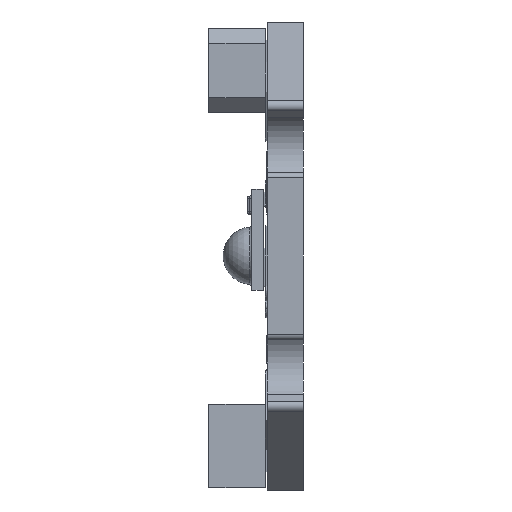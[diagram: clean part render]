
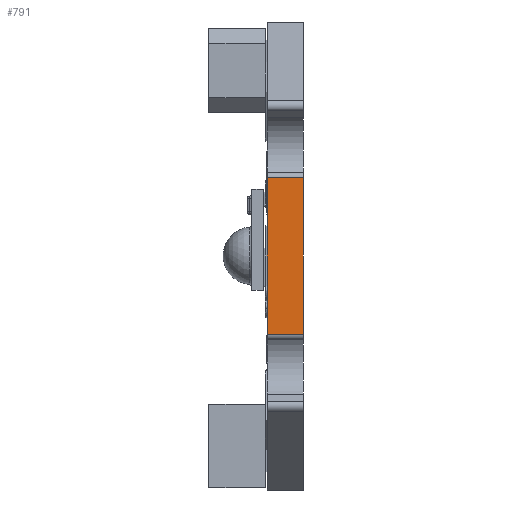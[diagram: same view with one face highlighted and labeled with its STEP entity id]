
A CAD part, left-side view. The second image highlights one B-rep face of the part: STEP entity #791.
In plain terms, the highlighted planar face has unit normal (-1, 0, 0).
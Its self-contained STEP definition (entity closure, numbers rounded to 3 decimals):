
#48 = EDGE_CURVE ( 'NONE', #6785, #29981, #9883, .T. ) ;
#791 = ADVANCED_FACE ( 'NONE', ( #30437 ), #7710, .F. ) ;
#2069 = AXIS2_PLACEMENT_3D ( 'NONE', #5690, #15795, #21425 ) ;
#2375 = DIRECTION ( 'NONE',  ( 0., 0., 1. ) ) ;
#3565 = ORIENTED_EDGE ( 'NONE', *, *, #28428, .T. ) ;
#3592 = CARTESIAN_POINT ( 'NONE',  ( 73.965, 0., -42.011 ) ) ;
#4915 = DIRECTION ( 'NONE',  ( 0., 0., 1. ) ) ;
#5690 = CARTESIAN_POINT ( 'NONE',  ( 73.965, 1.6, -42.011 ) ) ;
#6090 = ORIENTED_EDGE ( 'NONE', *, *, #23802, .T. ) ;
#6609 = ORIENTED_EDGE ( 'NONE', *, *, #48, .F. ) ;
#6785 = VERTEX_POINT ( 'NONE', #8931 ) ;
#7633 = LINE ( 'NONE', #10432, #30574 ) ;
#7710 = PLANE ( 'NONE',  #2069 ) ;
#8925 = CARTESIAN_POINT ( 'NONE',  ( 73.965, 1.6, -35.08 ) ) ;
#8931 = CARTESIAN_POINT ( 'NONE',  ( 73.965, 1.6, -42.011 ) ) ;
#9813 = DIRECTION ( 'NONE',  ( 0., -1., 0. ) ) ;
#9883 = LINE ( 'NONE', #19985, #28654 ) ;
#10301 = CARTESIAN_POINT ( 'NONE',  ( 73.965, 1.6, -42.011 ) ) ;
#10432 = CARTESIAN_POINT ( 'NONE',  ( 73.965, 1.6, -35.08 ) ) ;
#12165 = LINE ( 'NONE', #22923, #30085 ) ;
#15795 = DIRECTION ( 'NONE',  ( 1., 0., 0. ) ) ;
#18157 = EDGE_LOOP ( 'NONE', ( #3565, #30481, #6609, #6090 ) ) ;
#19985 = CARTESIAN_POINT ( 'NONE',  ( 73.965, 1.6, -42.011 ) ) ;
#21425 = DIRECTION ( 'NONE',  ( 0., 0., -1. ) ) ;
#22310 = VERTEX_POINT ( 'NONE', #31429 ) ;
#22923 = CARTESIAN_POINT ( 'NONE',  ( 73.965, 0., -42.011 ) ) ;
#23802 = EDGE_CURVE ( 'NONE', #6785, #27768, #28065, .T. ) ;
#25336 = DIRECTION ( 'NONE',  ( 0., -1., 0. ) ) ;
#27264 = VECTOR ( 'NONE', #9813, 1000. ) ;
#27419 = EDGE_CURVE ( 'NONE', #29981, #22310, #7633, .T. ) ;
#27768 = VERTEX_POINT ( 'NONE', #3592 ) ;
#28065 = LINE ( 'NONE', #10301, #27264 ) ;
#28428 = EDGE_CURVE ( 'NONE', #27768, #22310, #12165, .T. ) ;
#28654 = VECTOR ( 'NONE', #4915, 1000. ) ;
#29981 = VERTEX_POINT ( 'NONE', #8925 ) ;
#30085 = VECTOR ( 'NONE', #2375, 1000. ) ;
#30437 = FACE_OUTER_BOUND ( 'NONE', #18157, .T. ) ;
#30481 = ORIENTED_EDGE ( 'NONE', *, *, #27419, .F. ) ;
#30574 = VECTOR ( 'NONE', #25336, 1000. ) ;
#31429 = CARTESIAN_POINT ( 'NONE',  ( 73.965, 0., -35.08 ) ) ;
